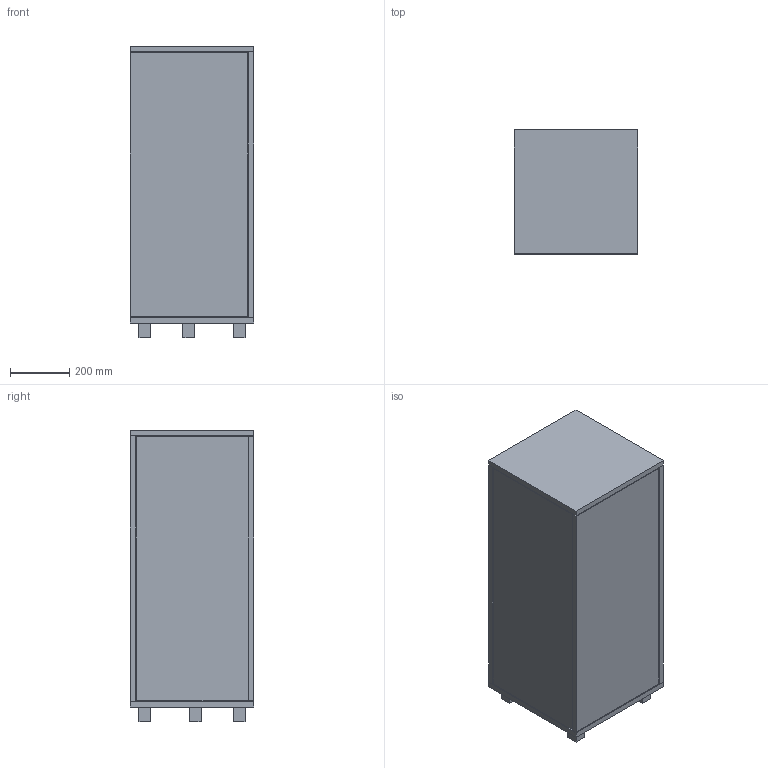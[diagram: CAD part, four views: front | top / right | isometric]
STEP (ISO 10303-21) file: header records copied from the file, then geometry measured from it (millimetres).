
FILE_DESCRIPTION(/* description */ ('STEP AP242','CAx-IF Rec.Pracs.---Representation and Presentation of Product Manufacturing Information (PMI)---4.0---2014-10-13','CAx-IF Rec.Pracs.---3D Tessellated Geometry---0.4---2014-09-14','2;1'),/* implementation_level */ '2;1');
FILE_NAME(/* name */ '9349283+9360943+9360733++(FurnSpin CAD configurator)',/* time_stamp */ '2026-03-16T09:26:22+01:00',/* author */ ('License CC BY-ND 4.0'),/* organization */ ('CADENAS'),/* preprocessor_version */ 'ST-DEVELOPER v20',/* originating_system */ 'PARTsolutions',/* authorisation */ ' ');
FILE_SCHEMA (('AP242_MANAGED_MODEL_BASED_3D_ENGINEERING_MIM_LF { 1 0 10303 442 1 1 4 }'));
Length unit declared in the file: millimetre
Products named in the file (26): 9349283+9360943+9360733++(FurnSpin CAD configurator); 9349283+9360943+9360733++(0_0_0_19_19_400_400_0_0_419_419_19_900_0__0
_0_0_3_19_19_19_19_0_19_0_19_3_3_5_5_0_40_50)_dummy; fix_furniture_side_panel(0_0_19_19_400_400_0_0_900_0__0_0_19_3); fix_furniture_bottom_panel(0_0_19_19_400_400_0_0_19_3_3); fix_furniture_top_panel(0_0_19_19_400_400_0_0_19_3_3); fix_furniture_back_panel(0_0_19_19_400_900_3); spin_furniture_front_panel(0_0_400_0_900_0_0_3_19_3_3); spin_furniture_side_panel(0_0_400_0_900_0__0_19_19_3); spin_furniture_top_panel(0_0_400_400_0_0_0__0_19_19_19_3_3_5_5); 9352251; 9352263; 9352259; spin_furniture_bottom_panel(0_0_400_400_0_0_0__0_19_19_19_3_3_5_5); 9352253; 9352281_Cover profile(885.6_900_0_3); 9360710_Glass corner profile(774_0_900_19_19_19_3_0); 9352269_Back fitting cover(353.5_400_400_0_0_19_19_3_3_5_5); 9352255_matt black; 9352257_matt black; 9352269_Side fitting cover(353.5_400_400_0_0_19_19_3_3_5_5); 11022226_pda_000; 11022226_1_pda_000; 11052906_adapter_adapter; 10650144_pda_000_1; 11052906_pda_000; Dummy Leg(40_50_0)
Assembly tree (48 placements, depth 2):
  9349283+9360943+9360733++(FurnSpin CAD configurator)
    9349283+9360943+9360733++(0_0_0_19_19_400_400_0_0_419_419_19_900_0__0
_0_0_3_19_19_19_19_0_19_0_19_3_3_5_5_0_40_50)_dummy
    fix_furniture_side_panel(0_0_19_19_400_400_0_0_900_0__0_0_19_3)
    fix_furniture_bottom_panel(0_0_19_19_400_400_0_0_19_3_3)
    fix_furniture_top_panel(0_0_19_19_400_400_0_0_19_3_3)
    fix_furniture_back_panel(0_0_19_19_400_900_3)
    spin_furniture_front_panel(0_0_400_0_900_0_0_3_19_3_3)
    spin_furniture_side_panel(0_0_400_0_900_0__0_19_19_3)
    spin_furniture_top_panel(0_0_400_400_0_0_0__0_19_19_19_3_3_5_5)
    9352251  x2
    9352263  x10
    9352259  x2
    spin_furniture_bottom_panel(0_0_400_400_0_0_0__0_19_19_19_3_3_5_5)
    9352253  x4
    9352281_Cover profile(885.6_900_0_3)
    9360710_Glass corner profile(774_0_900_19_19_19_3_0)
    9352269_Back fitting cover(353.5_400_400_0_0_19_19_3_3_5_5)  x2
    9352255_matt black  x2
    9352257_matt black  x2
    9352269_Side fitting cover(353.5_400_400_0_0_19_19_3_3_5_5)  x2
    11022226_pda_000
    11022226_1_pda_000
    11052906_adapter_adapter  x2
    10650144_pda_000_1
    11052906_pda_000
    Dummy Leg(40_50_0)  x5
Bounding box: 419 x 419 x 988 mm (x, y, z)
Volume: 42472041.1 mm3; surface area: 5470424.3 mm2
Topology: 47 solids, 47 shells, 1032 faces, 2665 edges, 1772 vertices
Faces by surface type: plane 899, cylinder 133
Full cylindrical faces by diameter (mm): 3 x1, 4.2 x18, 4.5 x6, 5 x12, 6 x5, 8.3 x1, 10 x1, 10.3 x1, 12.2 x2, 12.864 x4, 15 x4, 20 x1, 21 x2, 34.842 x2, 35 x5, 68 x1, 74 x1, 81 x1, 100 x1
Entity records: 18072 total; most frequent: CARTESIAN_POINT 3033, DIRECTION 2918, ORIENTED_EDGE 2844, EDGE_CURVE 1422, LINE 1194, VECTOR 1194, VERTEX_POINT 976, AXIS2_PLACEMENT_3D 862
